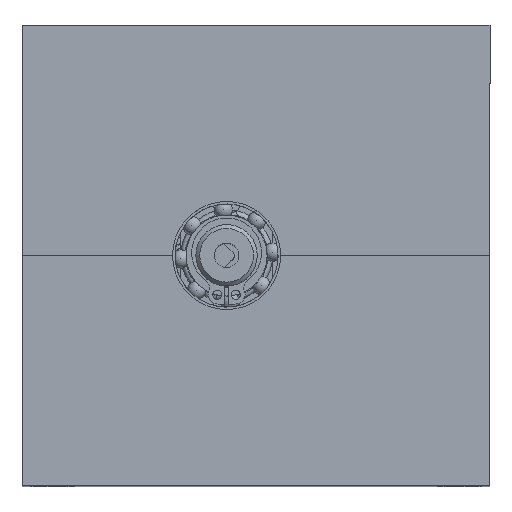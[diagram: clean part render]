
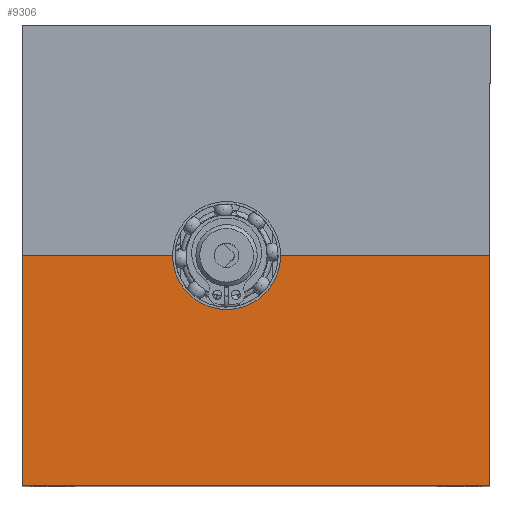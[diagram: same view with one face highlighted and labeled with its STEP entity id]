
A CAD part, top view. The second image highlights one B-rep face of the part: STEP entity #9306.
In plain terms, the highlighted planar face has unit normal (0, 0, 1).
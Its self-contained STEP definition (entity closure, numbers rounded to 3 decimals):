
#595=PLANE('',#10164);
#987=LINE('',#15370,#1756);
#997=LINE('',#15390,#1766);
#998=LINE('',#15392,#1767);
#999=LINE('',#15394,#1768);
#1000=LINE('',#15395,#1769);
#1756=VECTOR('',#11565,10.);
#1766=VECTOR('',#11577,10.);
#1767=VECTOR('',#11578,10.);
#1768=VECTOR('',#11579,10.);
#1769=VECTOR('',#11580,10.);
#2612=FACE_OUTER_BOUND('',#3150,.T.);
#3150=EDGE_LOOP('',(#7006,#7007,#7008,#7009,#7010,#7011));
#3747=CIRCLE('',#10160,7.05);
#4360=VERTEX_POINT('',#15354);
#4361=VERTEX_POINT('',#15355);
#4365=VERTEX_POINT('',#15368);
#4374=VERTEX_POINT('',#15389);
#4375=VERTEX_POINT('',#15391);
#4376=VERTEX_POINT('',#15393);
#5372=EDGE_CURVE('',#4360,#4361,#3747,.T.);
#5380=EDGE_CURVE('',#4361,#4365,#987,.T.);
#5390=EDGE_CURVE('',#4365,#4374,#997,.T.);
#5391=EDGE_CURVE('',#4374,#4375,#998,.T.);
#5392=EDGE_CURVE('',#4375,#4376,#999,.T.);
#5393=EDGE_CURVE('',#4360,#4376,#1000,.T.);
#7006=ORIENTED_EDGE('',*,*,#5380,.T.);
#7007=ORIENTED_EDGE('',*,*,#5390,.T.);
#7008=ORIENTED_EDGE('',*,*,#5391,.T.);
#7009=ORIENTED_EDGE('',*,*,#5392,.T.);
#7010=ORIENTED_EDGE('',*,*,#5393,.F.);
#7011=ORIENTED_EDGE('',*,*,#5372,.T.);
#9306=ADVANCED_FACE('',(#2612),#595,.F.);
#10160=AXIS2_PLACEMENT_3D('',#15356,#11551,#11552);
#10164=AXIS2_PLACEMENT_3D('',#15388,#11575,#11576);
#11551=DIRECTION('center_axis',(0.,0.,-1.));
#11552=DIRECTION('ref_axis',(1.,0.,0.));
#11565=DIRECTION('',(-1.,0.,0.));
#11575=DIRECTION('center_axis',(0.,0.,-1.));
#11576=DIRECTION('ref_axis',(1.,0.,0.));
#11577=DIRECTION('',(0.,-1.,0.));
#11578=DIRECTION('',(1.,0.,0.));
#11579=DIRECTION('',(0.,1.,0.));
#11580=DIRECTION('',(1.,0.,0.));
#15354=CARTESIAN_POINT('',(-1.283,0.,37.5));
#15355=CARTESIAN_POINT('',(-15.383,0.,37.5));
#15356=CARTESIAN_POINT('Origin',(-8.333,0.,37.5));
#15368=CARTESIAN_POINT('',(-35.,0.,37.5));
#15370=CARTESIAN_POINT('',(-0.283,0.,37.5));
#15388=CARTESIAN_POINT('Origin',(-35.,-25.,37.5));
#15389=CARTESIAN_POINT('',(-35.,-30.,37.5));
#15390=CARTESIAN_POINT('',(-35.,-25.,37.5));
#15391=CARTESIAN_POINT('',(26.,-30.,37.5));
#15392=CARTESIAN_POINT('',(-35.,-30.,37.5));
#15393=CARTESIAN_POINT('',(26.,0.,37.5));
#15394=CARTESIAN_POINT('',(26.,-25.,37.5));
#15395=CARTESIAN_POINT('',(10.75,0.,37.5));
